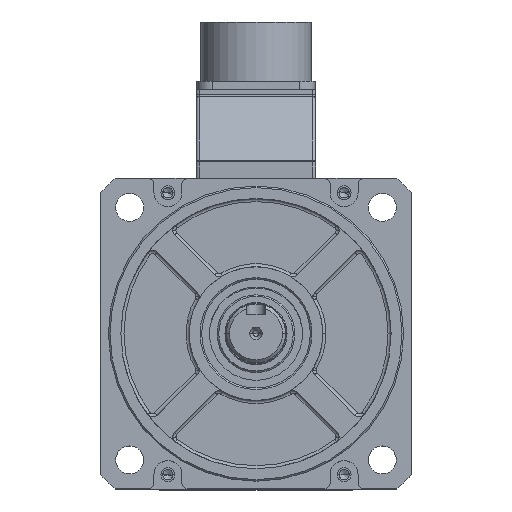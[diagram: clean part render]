
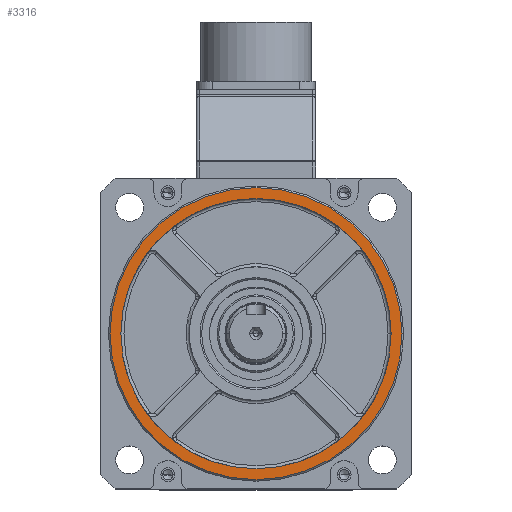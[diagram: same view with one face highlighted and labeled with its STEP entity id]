
A CAD part, top view. The second image highlights one B-rep face of the part: STEP entity #3316.
In plain terms, the highlighted planar face has unit normal (0, 0, 1).
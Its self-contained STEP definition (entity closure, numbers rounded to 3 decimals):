
#997 = EDGE_LOOP ( 'NONE', ( #32832, #26333 ) ) ;
#2092 = CIRCLE ( 'NONE', #16298, 47. ) ;
#2226 = DIRECTION ( 'NONE',  ( 0., 0., 1. ) ) ;
#3316 = ADVANCED_FACE ( 'NONE', ( #15039, #28969 ), #29558, .T. ) ;
#5302 = CARTESIAN_POINT ( 'NONE',  ( -43.5, 0., 13. ) ) ;
#6439 = CARTESIAN_POINT ( 'NONE',  ( 0., 0., 13. ) ) ;
#7505 = CARTESIAN_POINT ( 'NONE',  ( 0., 0., 13. ) ) ;
#8673 = AXIS2_PLACEMENT_3D ( 'NONE', #14630, #37816, #55613 ) ;
#8979 = AXIS2_PLACEMENT_3D ( 'NONE', #13702, #49643, #57963 ) ;
#9158 = CIRCLE ( 'NONE', #43290, 43.5 ) ;
#11233 = AXIS2_PLACEMENT_3D ( 'NONE', #42924, #2226, #20342 ) ;
#11523 = CIRCLE ( 'NONE', #8673, 47. ) ;
#12257 = ORIENTED_EDGE ( 'NONE', *, *, #47587, .T. ) ;
#12537 = DIRECTION ( 'NONE',  ( 0., 0., 1. ) ) ;
#13702 = CARTESIAN_POINT ( 'NONE',  ( 0., 0., 13. ) ) ;
#14630 = CARTESIAN_POINT ( 'NONE',  ( 0., 0., 13. ) ) ;
#15039 = FACE_OUTER_BOUND ( 'NONE', #23320, .T. ) ;
#16298 = AXIS2_PLACEMENT_3D ( 'NONE', #6439, #24543, #29866 ) ;
#20342 = DIRECTION ( 'NONE',  ( 1., 0., 0. ) ) ;
#20572 = DIRECTION ( 'NONE',  ( 1., 0., 0. ) ) ;
#22604 = ORIENTED_EDGE ( 'NONE', *, *, #29934, .T. ) ;
#23205 = CIRCLE ( 'NONE', #8979, 43.5 ) ;
#23320 = EDGE_LOOP ( 'NONE', ( #22604, #12257 ) ) ;
#24543 = DIRECTION ( 'NONE',  ( 0., 0., 1. ) ) ;
#26333 = ORIENTED_EDGE ( 'NONE', *, *, #49992, .F. ) ;
#26729 = EDGE_CURVE ( 'NONE', #54158, #28149, #9158, .T. ) ;
#28149 = VERTEX_POINT ( 'NONE', #5302 ) ;
#28969 = FACE_BOUND ( 'NONE', #997, .T. ) ;
#29558 = PLANE ( 'NONE',  #11233 ) ;
#29866 = DIRECTION ( 'NONE',  ( 1., 0., 0. ) ) ;
#29934 = EDGE_CURVE ( 'NONE', #49152, #35429, #2092, .T. ) ;
#32832 = ORIENTED_EDGE ( 'NONE', *, *, #26729, .F. ) ;
#33377 = CARTESIAN_POINT ( 'NONE',  ( 47., 0., 13. ) ) ;
#35429 = VERTEX_POINT ( 'NONE', #33377 ) ;
#37816 = DIRECTION ( 'NONE',  ( 0., 0., 1. ) ) ;
#42924 = CARTESIAN_POINT ( 'NONE',  ( 0., 0., 13. ) ) ;
#43290 = AXIS2_PLACEMENT_3D ( 'NONE', #7505, #12537, #20572 ) ;
#47200 = CARTESIAN_POINT ( 'NONE',  ( 43.5, 0., 13. ) ) ;
#47524 = CARTESIAN_POINT ( 'NONE',  ( -47., 0., 13. ) ) ;
#47587 = EDGE_CURVE ( 'NONE', #35429, #49152, #11523, .T. ) ;
#49152 = VERTEX_POINT ( 'NONE', #47524 ) ;
#49643 = DIRECTION ( 'NONE',  ( 0., 0., 1. ) ) ;
#49992 = EDGE_CURVE ( 'NONE', #28149, #54158, #23205, .T. ) ;
#54158 = VERTEX_POINT ( 'NONE', #47200 ) ;
#55613 = DIRECTION ( 'NONE',  ( 1., 0., 0. ) ) ;
#57963 = DIRECTION ( 'NONE',  ( 1., 0., 0. ) ) ;
